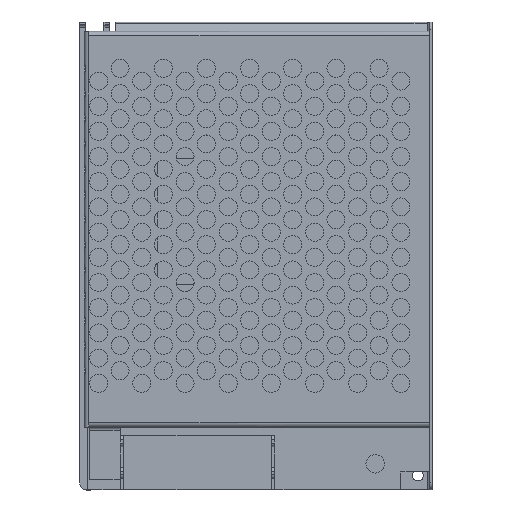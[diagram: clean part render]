
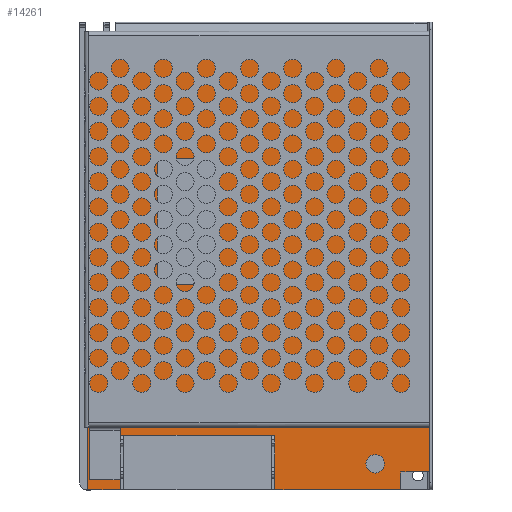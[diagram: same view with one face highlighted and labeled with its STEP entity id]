
A CAD part, top view. The second image highlights one B-rep face of the part: STEP entity #14261.
In plain terms, the highlighted planar face has unit normal (0, 0, 1).
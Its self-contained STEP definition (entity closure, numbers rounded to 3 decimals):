
#489 = VERTEX_POINT ( 'NONE', #9612 ) ;
#1553 = EDGE_CURVE ( 'NONE', #20434, #3995, #32085, .T. ) ;
#1958 = ORIENTED_EDGE ( 'NONE', *, *, #7680, .T. ) ;
#2232 = DIRECTION ( 'NONE',  ( 0., 0., 1. ) ) ;
#2772 = VERTEX_POINT ( 'NONE', #17027 ) ;
#2786 = ORIENTED_EDGE ( 'NONE', *, *, #13228, .F. ) ;
#2938 = ORIENTED_EDGE ( 'NONE', *, *, #7970, .T. ) ;
#3059 = CARTESIAN_POINT ( 'NONE',  ( -33.788, -30.744, 100.964 ) ) ;
#3464 = CARTESIAN_POINT ( 'NONE',  ( -104.64, -35.429, 100.964 ) ) ;
#3637 = AXIS2_PLACEMENT_3D ( 'NONE', #15624, #4136, #6570 ) ;
#3702 = ORIENTED_EDGE ( 'NONE', *, *, #28890, .T. ) ;
#3902 = EDGE_LOOP ( 'NONE', ( #2786, #30349 ) ) ;
#3973 = LINE ( 'NONE', #9150, #28450 ) ;
#3995 = VERTEX_POINT ( 'NONE', #3464 ) ;
#4136 = DIRECTION ( 'NONE',  ( 0., 0., 1. ) ) ;
#4319 = AXIS2_PLACEMENT_3D ( 'NONE', #18860, #9289, #11235 ) ;
#4829 = CARTESIAN_POINT ( 'NONE',  ( -18.64, 84.571, 100.964 ) ) ;
#5457 = DIRECTION ( 'NONE',  ( 1., 0., 0. ) ) ;
#5720 = EDGE_CURVE ( 'NONE', #22907, #3995, #10147, .T. ) ;
#6541 = CARTESIAN_POINT ( 'NONE',  ( -33.788, -25.642, 100.964 ) ) ;
#6570 = DIRECTION ( 'NONE',  ( 0., -1., 0. ) ) ;
#6996 = CARTESIAN_POINT ( 'NONE',  ( -26.64, -35.429, 100.964 ) ) ;
#7102 = DIRECTION ( 'NONE',  ( -1., 0., 0. ) ) ;
#7126 = VERTEX_POINT ( 'NONE', #28126 ) ;
#7182 = LINE ( 'NONE', #17063, #30709 ) ;
#7277 = AXIS2_PLACEMENT_3D ( 'NONE', #24448, #2232, #31911 ) ;
#7471 = CARTESIAN_POINT ( 'NONE',  ( -104.64, -20.429, 100.964 ) ) ;
#7680 = EDGE_CURVE ( 'NONE', #2772, #22907, #7182, .T. ) ;
#7687 = EDGE_CURVE ( 'NONE', #20434, #14366, #21269, .T. ) ;
#7970 = EDGE_CURVE ( 'NONE', #17166, #2772, #31732, .T. ) ;
#8950 = DIRECTION ( 'NONE',  ( 1., 0., 0. ) ) ;
#9150 = CARTESIAN_POINT ( 'NONE',  ( -18.64, -30.429, 100.964 ) ) ;
#9289 = DIRECTION ( 'NONE',  ( 0., 0., 1. ) ) ;
#9612 = CARTESIAN_POINT ( 'NONE',  ( -26.64, -30.429, 100.964 ) ) ;
#9675 = EDGE_CURVE ( 'NONE', #14366, #31919, #15926, .T. ) ;
#9682 = LINE ( 'NONE', #26738, #21308 ) ;
#9716 = DIRECTION ( 'NONE',  ( 0., -1., 0. ) ) ;
#10147 = LINE ( 'NONE', #27353, #19816 ) ;
#10548 = VERTEX_POINT ( 'NONE', #6541 ) ;
#11235 = DIRECTION ( 'NONE',  ( 0., -1., 0. ) ) ;
#11378 = DIRECTION ( 'NONE',  ( 0., -1., 0. ) ) ;
#11651 = CARTESIAN_POINT ( 'NONE',  ( -104.64, -35.429, 100.964 ) ) ;
#11792 = ORIENTED_EDGE ( 'NONE', *, *, #23786, .T. ) ;
#11840 = LINE ( 'NONE', #6996, #21914 ) ;
#12940 = CIRCLE ( 'NONE', #3637, 2.551 ) ;
#13228 = EDGE_CURVE ( 'NONE', #10548, #23009, #25517, .T. ) ;
#13801 = CARTESIAN_POINT ( 'NONE',  ( -61.64, -35.429, 100.964 ) ) ;
#14261 = ADVANCED_FACE ( 'NONE', ( #21844, #27217 ), #27062, .T. ) ;
#14366 = VERTEX_POINT ( 'NONE', #27523 ) ;
#14478 = ORIENTED_EDGE ( 'NONE', *, *, #9675, .T. ) ;
#14565 = CARTESIAN_POINT ( 'NONE',  ( -113.64, -35.429, 100.964 ) ) ;
#14850 = DIRECTION ( 'NONE',  ( 0., 1., 0. ) ) ;
#15624 = CARTESIAN_POINT ( 'NONE',  ( -33.788, -28.193, 100.964 ) ) ;
#15926 = LINE ( 'NONE', #25993, #30852 ) ;
#17027 = CARTESIAN_POINT ( 'NONE',  ( -113.64, 84.571, 100.964 ) ) ;
#17063 = CARTESIAN_POINT ( 'NONE',  ( -113.64, -35.429, 100.964 ) ) ;
#17166 = VERTEX_POINT ( 'NONE', #17903 ) ;
#17903 = CARTESIAN_POINT ( 'NONE',  ( -18.64, 84.571, 100.964 ) ) ;
#18860 = CARTESIAN_POINT ( 'NONE',  ( -33.788, -28.193, 100.964 ) ) ;
#19229 = VERTEX_POINT ( 'NONE', #27724 ) ;
#19263 = ORIENTED_EDGE ( 'NONE', *, *, #1553, .F. ) ;
#19337 = VECTOR ( 'NONE', #8950, 1000. ) ;
#19672 = ORIENTED_EDGE ( 'NONE', *, *, #21815, .T. ) ;
#19816 = VECTOR ( 'NONE', #5457, 1000. ) ;
#20434 = VERTEX_POINT ( 'NONE', #7471 ) ;
#20663 = ORIENTED_EDGE ( 'NONE', *, *, #5720, .T. ) ;
#20910 = ORIENTED_EDGE ( 'NONE', *, *, #7687, .T. ) ;
#21269 = LINE ( 'NONE', #31169, #19337 ) ;
#21308 = VECTOR ( 'NONE', #14850, 1000. ) ;
#21815 = EDGE_CURVE ( 'NONE', #489, #7126, #3973, .T. ) ;
#21844 = FACE_BOUND ( 'NONE', #3902, .T. ) ;
#21914 = VECTOR ( 'NONE', #28899, 1000. ) ;
#22652 = VECTOR ( 'NONE', #9716, 1000. ) ;
#22907 = VERTEX_POINT ( 'NONE', #14565 ) ;
#23009 = VERTEX_POINT ( 'NONE', #3059 ) ;
#23786 = EDGE_CURVE ( 'NONE', #19229, #489, #29446, .T. ) ;
#24448 = CARTESIAN_POINT ( 'NONE',  ( -18.64, -35.429, 100.964 ) ) ;
#24879 = VECTOR ( 'NONE', #25158, 1000. ) ;
#25158 = DIRECTION ( 'NONE',  ( 0., 1., 0. ) ) ;
#25517 = CIRCLE ( 'NONE', #4319, 2.551 ) ;
#25555 = DIRECTION ( 'NONE',  ( 1., 0., 0. ) ) ;
#25993 = CARTESIAN_POINT ( 'NONE',  ( -61.64, -35.429, 100.964 ) ) ;
#26288 = EDGE_CURVE ( 'NONE', #23009, #10548, #12940, .T. ) ;
#26738 = CARTESIAN_POINT ( 'NONE',  ( -18.64, -30.429, 100.964 ) ) ;
#26971 = DIRECTION ( 'NONE',  ( 0., -1., 0. ) ) ;
#27062 = PLANE ( 'NONE',  #7277 ) ;
#27217 = FACE_OUTER_BOUND ( 'NONE', #29821, .T. ) ;
#27347 = EDGE_CURVE ( 'NONE', #7126, #17166, #9682, .T. ) ;
#27353 = CARTESIAN_POINT ( 'NONE',  ( -26.64, -35.429, 100.964 ) ) ;
#27523 = CARTESIAN_POINT ( 'NONE',  ( -61.64, -20.429, 100.964 ) ) ;
#27585 = CARTESIAN_POINT ( 'NONE',  ( -26.64, -30.429, 100.964 ) ) ;
#27724 = CARTESIAN_POINT ( 'NONE',  ( -26.64, -35.429, 100.964 ) ) ;
#28126 = CARTESIAN_POINT ( 'NONE',  ( -18.64, -30.429, 100.964 ) ) ;
#28450 = VECTOR ( 'NONE', #25555, 1000. ) ;
#28890 = EDGE_CURVE ( 'NONE', #31919, #19229, #11840, .T. ) ;
#28899 = DIRECTION ( 'NONE',  ( 1., 0., 0. ) ) ;
#29446 = LINE ( 'NONE', #27585, #24879 ) ;
#29729 = VECTOR ( 'NONE', #7102, 1000. ) ;
#29821 = EDGE_LOOP ( 'NONE', ( #20910, #14478, #3702, #11792, #19672, #30196, #2938, #1958, #20663, #19263 ) ) ;
#30196 = ORIENTED_EDGE ( 'NONE', *, *, #27347, .T. ) ;
#30349 = ORIENTED_EDGE ( 'NONE', *, *, #26288, .F. ) ;
#30709 = VECTOR ( 'NONE', #26971, 1000. ) ;
#30852 = VECTOR ( 'NONE', #11378, 1000. ) ;
#31169 = CARTESIAN_POINT ( 'NONE',  ( -18.64, -20.429, 100.964 ) ) ;
#31732 = LINE ( 'NONE', #4829, #29729 ) ;
#31911 = DIRECTION ( 'NONE',  ( 0., -1., 0. ) ) ;
#31919 = VERTEX_POINT ( 'NONE', #13801 ) ;
#32085 = LINE ( 'NONE', #11651, #22652 ) ;
